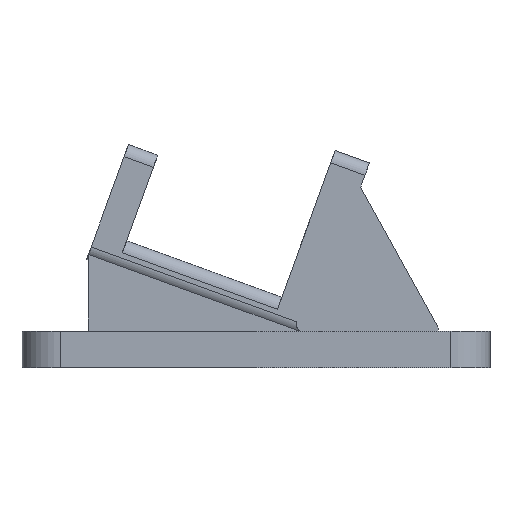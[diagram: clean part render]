
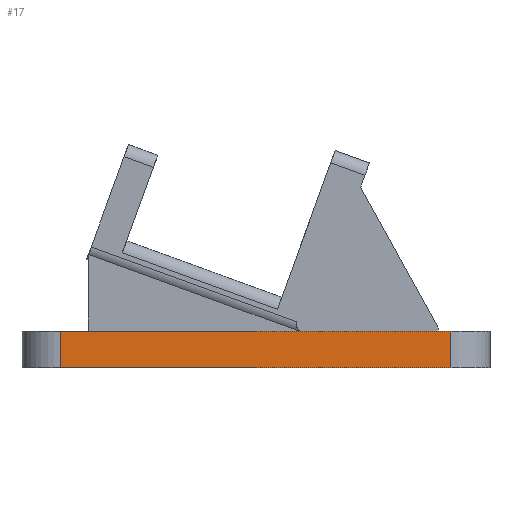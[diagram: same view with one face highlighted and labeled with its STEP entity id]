
A CAD part, left-side view. The second image highlights one B-rep face of the part: STEP entity #17.
In plain terms, the highlighted planar face has unit normal (-1, 0, 0).
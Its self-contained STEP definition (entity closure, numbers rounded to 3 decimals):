
#17 = ADVANCED_FACE('',(#18),#32,.F.);
#18 = FACE_BOUND('',#19,.F.);
#19 = EDGE_LOOP('',(#20,#55,#83,#111));
#20 = ORIENTED_EDGE('',*,*,#21,.F.);
#21 = EDGE_CURVE('',#22,#24,#26,.T.);
#22 = VERTEX_POINT('',#23);
#23 = CARTESIAN_POINT('',(-28.4,-15.,2.8));
#24 = VERTEX_POINT('',#25);
#25 = CARTESIAN_POINT('',(-28.4,15.,2.8));
#26 = SURFACE_CURVE('',#27,(#31,#43),.PCURVE_S1.);
#27 = LINE('',#28,#29);
#28 = CARTESIAN_POINT('',(-28.4,-18.,2.8));
#29 = VECTOR('',#30,1.);
#30 = DIRECTION('',(0.,1.,0.));
#31 = PCURVE('',#32,#37);
#32 = PLANE('',#33);
#33 = AXIS2_PLACEMENT_3D('',#34,#35,#36);
#34 = CARTESIAN_POINT('',(-28.4,-18.,0.));
#35 = DIRECTION('',(1.,0.,0.));
#36 = DIRECTION('',(0.,0.,1.));
#37 = DEFINITIONAL_REPRESENTATION('',(#38),#42);
#38 = LINE('',#39,#40);
#39 = CARTESIAN_POINT('',(2.8,0.));
#40 = VECTOR('',#41,1.);
#41 = DIRECTION('',(0.,-1.));
#42 = ( GEOMETRIC_REPRESENTATION_CONTEXT(2) 
PARAMETRIC_REPRESENTATION_CONTEXT() REPRESENTATION_CONTEXT('2D SPACE',''
  ) );
#43 = PCURVE('',#44,#49);
#44 = PLANE('',#45);
#45 = AXIS2_PLACEMENT_3D('',#46,#47,#48);
#46 = CARTESIAN_POINT('',(-28.4,-18.,2.8));
#47 = DIRECTION('',(0.,0.,1.));
#48 = DIRECTION('',(1.,0.,0.));
#49 = DEFINITIONAL_REPRESENTATION('',(#50),#54);
#50 = LINE('',#51,#52);
#51 = CARTESIAN_POINT('',(0.,0.));
#52 = VECTOR('',#53,1.);
#53 = DIRECTION('',(0.,1.));
#54 = ( GEOMETRIC_REPRESENTATION_CONTEXT(2) 
PARAMETRIC_REPRESENTATION_CONTEXT() REPRESENTATION_CONTEXT('2D SPACE',''
  ) );
#55 = ORIENTED_EDGE('',*,*,#56,.F.);
#56 = EDGE_CURVE('',#57,#22,#59,.T.);
#57 = VERTEX_POINT('',#58);
#58 = CARTESIAN_POINT('',(-28.4,-15.,0.));
#59 = SURFACE_CURVE('',#60,(#64,#71),.PCURVE_S1.);
#60 = LINE('',#61,#62);
#61 = CARTESIAN_POINT('',(-28.4,-15.,0.));
#62 = VECTOR('',#63,1.);
#63 = DIRECTION('',(0.,0.,1.));
#64 = PCURVE('',#32,#65);
#65 = DEFINITIONAL_REPRESENTATION('',(#66),#70);
#66 = LINE('',#67,#68);
#67 = CARTESIAN_POINT('',(0.,-3.));
#68 = VECTOR('',#69,1.);
#69 = DIRECTION('',(1.,0.));
#70 = ( GEOMETRIC_REPRESENTATION_CONTEXT(2) 
PARAMETRIC_REPRESENTATION_CONTEXT() REPRESENTATION_CONTEXT('2D SPACE',''
  ) );
#71 = PCURVE('',#72,#77);
#72 = CYLINDRICAL_SURFACE('',#73,3.);
#73 = AXIS2_PLACEMENT_3D('',#74,#75,#76);
#74 = CARTESIAN_POINT('',(-25.4,-15.,0.));
#75 = DIRECTION('',(0.,0.,1.));
#76 = DIRECTION('',(-1.,-0.,0.));
#77 = DEFINITIONAL_REPRESENTATION('',(#78),#82);
#78 = LINE('',#79,#80);
#79 = CARTESIAN_POINT('',(0.,0.));
#80 = VECTOR('',#81,1.);
#81 = DIRECTION('',(0.,1.));
#82 = ( GEOMETRIC_REPRESENTATION_CONTEXT(2) 
PARAMETRIC_REPRESENTATION_CONTEXT() REPRESENTATION_CONTEXT('2D SPACE',''
  ) );
#83 = ORIENTED_EDGE('',*,*,#84,.T.);
#84 = EDGE_CURVE('',#57,#85,#87,.T.);
#85 = VERTEX_POINT('',#86);
#86 = CARTESIAN_POINT('',(-28.4,15.,0.));
#87 = SURFACE_CURVE('',#88,(#92,#99),.PCURVE_S1.);
#88 = LINE('',#89,#90);
#89 = CARTESIAN_POINT('',(-28.4,-18.,0.));
#90 = VECTOR('',#91,1.);
#91 = DIRECTION('',(0.,1.,0.));
#92 = PCURVE('',#32,#93);
#93 = DEFINITIONAL_REPRESENTATION('',(#94),#98);
#94 = LINE('',#95,#96);
#95 = CARTESIAN_POINT('',(0.,0.));
#96 = VECTOR('',#97,1.);
#97 = DIRECTION('',(0.,-1.));
#98 = ( GEOMETRIC_REPRESENTATION_CONTEXT(2) 
PARAMETRIC_REPRESENTATION_CONTEXT() REPRESENTATION_CONTEXT('2D SPACE',''
  ) );
#99 = PCURVE('',#100,#105);
#100 = PLANE('',#101);
#101 = AXIS2_PLACEMENT_3D('',#102,#103,#104);
#102 = CARTESIAN_POINT('',(-28.4,-18.,0.));
#103 = DIRECTION('',(0.,0.,1.));
#104 = DIRECTION('',(1.,0.,0.));
#105 = DEFINITIONAL_REPRESENTATION('',(#106),#110);
#106 = LINE('',#107,#108);
#107 = CARTESIAN_POINT('',(0.,0.));
#108 = VECTOR('',#109,1.);
#109 = DIRECTION('',(0.,1.));
#110 = ( GEOMETRIC_REPRESENTATION_CONTEXT(2) 
PARAMETRIC_REPRESENTATION_CONTEXT() REPRESENTATION_CONTEXT('2D SPACE',''
  ) );
#111 = ORIENTED_EDGE('',*,*,#112,.T.);
#112 = EDGE_CURVE('',#85,#24,#113,.T.);
#113 = SURFACE_CURVE('',#114,(#118,#125),.PCURVE_S1.);
#114 = LINE('',#115,#116);
#115 = CARTESIAN_POINT('',(-28.4,15.,0.));
#116 = VECTOR('',#117,1.);
#117 = DIRECTION('',(0.,0.,1.));
#118 = PCURVE('',#32,#119);
#119 = DEFINITIONAL_REPRESENTATION('',(#120),#124);
#120 = LINE('',#121,#122);
#121 = CARTESIAN_POINT('',(0.,-33.));
#122 = VECTOR('',#123,1.);
#123 = DIRECTION('',(1.,0.));
#124 = ( GEOMETRIC_REPRESENTATION_CONTEXT(2) 
PARAMETRIC_REPRESENTATION_CONTEXT() REPRESENTATION_CONTEXT('2D SPACE',''
  ) );
#125 = PCURVE('',#126,#131);
#126 = CYLINDRICAL_SURFACE('',#127,3.);
#127 = AXIS2_PLACEMENT_3D('',#128,#129,#130);
#128 = CARTESIAN_POINT('',(-25.4,15.,0.));
#129 = DIRECTION('',(0.,0.,1.));
#130 = DIRECTION('',(-1.,-0.,0.));
#131 = DEFINITIONAL_REPRESENTATION('',(#132),#136);
#132 = LINE('',#133,#134);
#133 = CARTESIAN_POINT('',(-0.,0.));
#134 = VECTOR('',#135,1.);
#135 = DIRECTION('',(-0.,1.));
#136 = ( GEOMETRIC_REPRESENTATION_CONTEXT(2) 
PARAMETRIC_REPRESENTATION_CONTEXT() REPRESENTATION_CONTEXT('2D SPACE',''
  ) );
